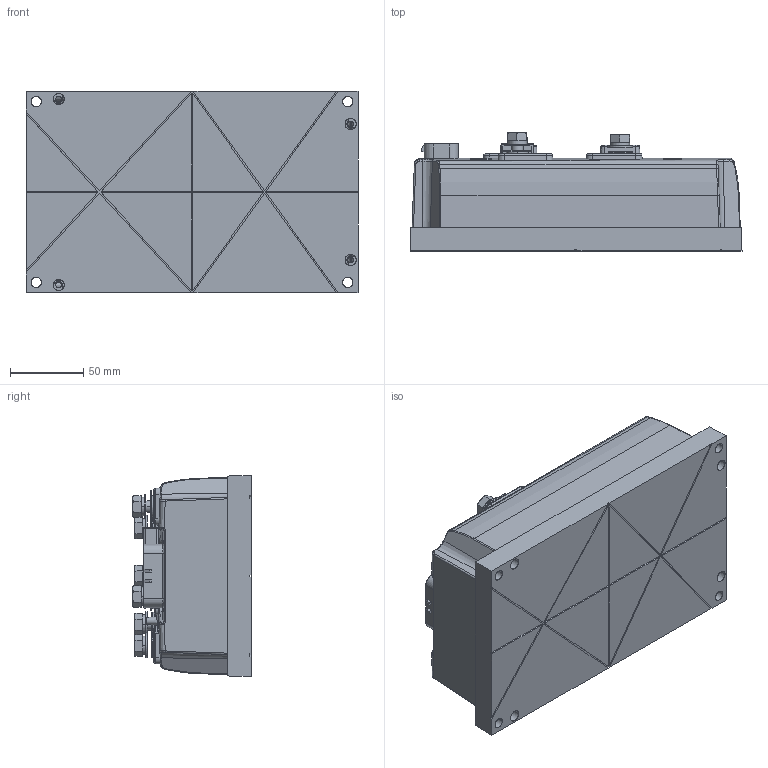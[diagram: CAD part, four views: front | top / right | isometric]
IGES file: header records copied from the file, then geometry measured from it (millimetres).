
Start section: SolidWorks IGES file using analytic representation for surfaces
Global section: file name: N:\UK\CAD\CAD Shared\Dragon8\Solidworks models\CUSTOMER MODELS\Dragon8 CONTROLLER.IGS; native system: SolidWorks 2015; preprocessor: SolidWorks 2015; author: steve.jacobson; date: 151027.092401; units: millimetre
Bounding box: 227.1 x 80.92 x 137.6 mm (x, y, z)
Surface area: 131669.7 mm2 (no closed solid volume)
Topology: 0 solids, 0 shells, 1163 faces, 14795 edges, 14757 vertices
Faces by surface type: bspline 668, revolution 495
